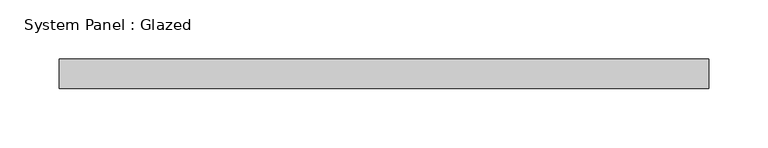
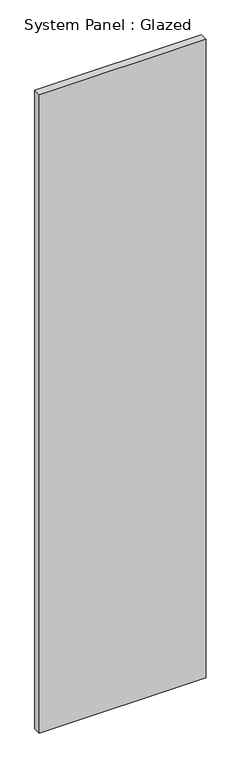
"""IFC4 building model written with IfcOpenShell, lengths in millimetres: plate geometry, System Panel : Glazed."""

import ifcopenshell
import ifcopenshell.guid

model = None  # the IFC model being written
_history = None  # IfcOwnerHistory: only IFC2X3 demands one
_inside = {}  # id of a spatial element -> (the spatial element, [elements in it])
_under = {}  # id of a project, library or spatial element -> (it, [spatial elements below it])
_declared = {}  # id of a project -> (the project, [libraries it declares])
_typed = {}  # id of a type object -> (the type object, [elements of that type])
_made_of = {}  # id of a material, layer set ... -> (it, [elements and type objects made of it])


def new_model(schema):
    """Start an empty IFC model of exactly this schema.

    Asked for "IFC4X3", IfcOpenShell would pick the latest addendum, in which some entities
    have other attributes; the version numbers below select the first issue.
    IFC2X3 requires an IfcOwnerHistory on every rooted entity: one is made here for all.
    """
    global model, _history
    if schema == "IFC4X3":
        model = ifcopenshell.file(schema_version=(4, 3, 0, 0))
    else:
        model = ifcopenshell.file(schema=schema)
    _inside.clear()
    _under.clear()
    _declared.clear()
    _typed.clear()
    _made_of.clear()
    _history = None
    if model.schema == "IFC2X3":
        org = make("IfcOrganization", Name="unknown")
        user = make(
            "IfcPersonAndOrganization",
            ThePerson=make("IfcPerson", FamilyName="unknown"),
            TheOrganization=org,
        )
        app = make(
            "IfcApplication",
            ApplicationDeveloper=org,
            Version="unknown",
            ApplicationFullName="unknown",
            ApplicationIdentifier="unknown",
        )
        _history = make(
            "IfcOwnerHistory",
            OwningUser=user,
            OwningApplication=app,
            ChangeAction="ADDED",
            CreationDate=0,
        )
    return model


def make(cls, **values):
    """One entity of the class cls with the attributes given. An attribute that is None is left unset."""
    return model.create_entity(
        cls, **{name: value for name, value in values.items() if value is not None}
    )


def rooted(cls, **values):
    """An entity with a GlobalId (a new one), such as an element, a storey or a relation."""
    return make(cls, GlobalId=ifcopenshell.guid.new(), OwnerHistory=_history, **values)


def si_unit(unit_type, name, prefix=None):
    """IfcSIUnit, for example si_unit("LENGTHUNIT", "METRE", prefix="MILLI")."""
    return make("IfcSIUnit", UnitType=unit_type, Prefix=prefix, Name=name)


def assignment(units):
    """IfcUnitAssignment: the units of a project."""
    return None if units is None else make("IfcUnitAssignment", Units=units)


def point(xyz):
    """IfcCartesianPoint."""
    return None if xyz is None else make("IfcCartesianPoint", Coordinates=xyz)


def direction(xyz):
    """IfcDirection."""
    return None if xyz is None else make("IfcDirection", DirectionRatios=xyz)


def frame(location, z_axis=None, x_axis=None):
    """IfcAxis2Placement3D, a coordinate frame: its origin and axes. An axis left out is left unset."""
    return make(
        "IfcAxis2Placement3D",
        Location=point(location),
        Axis=direction(z_axis),
        RefDirection=direction(x_axis),
    )


def origin():
    """The frame at (0, 0, 0) with its axes left unset."""
    return frame((0.0, 0.0, 0.0))


def origin_with_axes():
    """The frame at (0, 0, 0) with the z axis (0, 0, 1) and the x axis (1, 0, 0) written out."""
    return frame((0.0, 0.0, 0.0), z_axis=(0.0, 0.0, 1.0), x_axis=(1.0, 0.0, 0.0))


def place(relative_to, where):
    """IfcLocalPlacement: puts the frame where relative to a parent placement (None: the world)."""
    return make(
        "IfcLocalPlacement", PlacementRelTo=relative_to, RelativePlacement=where
    )


def context(
    kind, dimensions, precision=None, world=None, true_north=None, identifier=None
):
    """IfcGeometricRepresentationContext, for example the 3D "Model" context."""
    return make(
        "IfcGeometricRepresentationContext",
        ContextIdentifier=identifier,
        ContextType=kind,
        CoordinateSpaceDimension=dimensions,
        Precision=precision,
        WorldCoordinateSystem=world,
        TrueNorth=true_north,
    )


def project(units=None, contexts=None):
    """IfcProject with its units and contexts."""
    return rooted(
        "IfcProject",
        Name="project",
        RepresentationContexts=contexts,
        UnitsInContext=assignment(units),
    )


def spatial(cls, under=None, at=None, **own):
    """A site, building, storey or space (cls), placed at a placement, below another one or the project."""
    s = rooted(cls, ObjectPlacement=at, **own)
    if under is not None:
        _under.setdefault(under.id(), (under, []))[1].append(s)
    return s


def polyline(points):
    """IfcPolyline through the points."""
    return make("IfcPolyline", Points=[point(p) for p in points])


def outline(outer, holes=None, kind="AREA"):
    """IfcArbitraryClosedProfileDef: a profile drawn as a closed curve; with holes, ...WithVoids."""
    if holes is None:
        return make("IfcArbitraryClosedProfileDef", ProfileType=kind, OuterCurve=outer)
    return make(
        "IfcArbitraryProfileDefWithVoids",
        ProfileType=kind,
        OuterCurve=outer,
        InnerCurves=holes,
    )


def extrude(swept, where, along, depth):
    """IfcExtrudedAreaSolid: the profile swept, set in the frame where, extruded along a direction by depth."""
    return make(
        "IfcExtrudedAreaSolid",
        SweptArea=swept,
        Position=where,
        ExtrudedDirection=direction(along),
        Depth=depth,
    )


def shape(context_of_items, identifier, shape_type, items):
    """IfcShapeRepresentation: the items that make up one representation, for example the "Body"."""
    return make(
        "IfcShapeRepresentation",
        ContextOfItems=context_of_items,
        RepresentationIdentifier=identifier,
        RepresentationType=shape_type,
        Items=items,
    )


def source(mapping_origin, context_of_items, identifier, shape_type, items):
    """IfcRepresentationMap: a shape defined once, which mapped items show again and again."""
    return make(
        "IfcRepresentationMap",
        MappingOrigin=mapping_origin,
        MappedRepresentation=shape(context_of_items, identifier, shape_type, items),
    )


def transform(
    local_origin,
    x_axis=None,
    y_axis=None,
    z_axis=None,
    scale=None,
    scale2=None,
    scale3=None,
    uniform=True,
):
    """IfcCartesianTransformationOperator3D, or its non-uniform kind. x_axis, y_axis, z_axis: its Axis1, 2, 3."""
    if uniform:
        return make(
            "IfcCartesianTransformationOperator3D",
            Axis1=direction(x_axis),
            Axis2=direction(y_axis),
            LocalOrigin=point(local_origin),
            Scale=scale,
            Axis3=direction(z_axis),
        )
    return make(
        "IfcCartesianTransformationOperator3DnonUniform",
        Axis1=direction(x_axis),
        Axis2=direction(y_axis),
        LocalOrigin=point(local_origin),
        Scale=scale,
        Axis3=direction(z_axis),
        Scale2=scale2,
        Scale3=scale3,
    )


def mapped(mapping_source, mapping_target):
    """IfcMappedItem: shows the shape of a source again, moved by a transform."""
    return make(
        "IfcMappedItem", MappingSource=mapping_source, MappingTarget=mapping_target
    )


def made_of(thing, what):
    """Note that an element or type object is made of a material, layer set ...; save() writes the relation."""
    if what is not None:
        _made_of.setdefault(what.id(), (what, []))[1].append(thing)
    return thing


def element(
    cls,
    number,
    at=None,
    inside=None,
    cuts=None,
    type_object=None,
    material=None,
    context=None,
    identifier="Body",
    shape_type=None,
    held_by="IfcProductDefinitionShape",
    body=None,
    shapes=None,
    **own,
):
    """One element of the class cls, such as IfcWall. Its Tag is "e" and its number.

    at: its placement. inside: the storey or other place that contains it. cuts: it is an
    opening in that element (IfcRelVoidsElement). A single representation is given by context,
    identifier, shape_type and body (its items); several are given by shapes. held_by: the class
    of the entity that holds the representations. save() writes the other relations.
    """
    e = rooted(cls, Tag="e%d" % number, ObjectPlacement=at, **own)
    if body is not None:
        shapes = [shape(context, identifier, shape_type, body)]
    if shapes is not None:
        e.Representation = make(held_by, Representations=shapes)
    if inside is not None:
        _inside.setdefault(inside.id(), (inside, []))[1].append(e)
    if cuts is not None:
        rooted(
            "IfcRelVoidsElement", RelatingBuildingElement=cuts, RelatedOpeningElement=e
        )
    if type_object is not None:
        _typed.setdefault(type_object.id(), (type_object, []))[1].append(e)
    return made_of(e, material)


def aggregate(whole, parts):
    """IfcRelAggregates: a whole, such as a stair, and the parts it consists of."""
    return rooted("IfcRelAggregates", RelatingObject=whole, RelatedObjects=parts)


def save(model, path):
    """Write the relations noted so far, then the file.

    IfcRelAggregates (storeys below a building ...), IfcRelContainedInSpatialStructure (elements
    in a storey), IfcRelDefinesByType, IfcRelAssociatesMaterial and IfcRelDeclares: one each for
    every whole, place, type object, material and project.
    """
    for whole, parts in _under.values():
        aggregate(whole, parts)
    for where, things in _inside.values():
        rooted(
            "IfcRelContainedInSpatialStructure",
            RelatedElements=things,
            RelatingStructure=where,
        )
    for kind, things in _typed.values():
        rooted("IfcRelDefinesByType", RelatedObjects=things, RelatingType=kind)
    for what, things in _made_of.values():
        rooted("IfcRelAssociatesMaterial", RelatedObjects=things, RelatingMaterial=what)
    for by, libraries in _declared.values():
        rooted("IfcRelDeclares", RelatingContext=by, RelatedDefinitions=libraries)
    model.write(path)


def system_panel_glazed_55cc88df(model_context):
    return source(origin(), model_context, "Body", "SweptSolid", [
        extrude(outline(polyline([(274.9999999, -49.5), (-274.9999999, -49.5), (-274.9999999, -24.5), (274.9999999, -24.5), (274.9999999, -49.5)])), origin_with_axes(), (0.0, 0.0, 1.0), 2225.0),
    ])


if __name__ == "__main__":
    model = new_model("IFC4")
    model_context = context("Model", 3, world=origin())
    ifc_project = project(units=[si_unit("LENGTHUNIT", "METRE", prefix="MILLI")], contexts=[model_context])
    site = spatial("IfcSite", under=ifc_project)
    building = spatial("IfcBuilding", under=site)
    placement = place(None, origin())
    system_panel_glazed_shape = system_panel_glazed_55cc88df(model_context)
    element("IfcPlate", 1, ObjectType="System Panel : Glazed", at=placement, inside=building, context=model_context, shape_type="MappedRepresentation", body=[
        mapped(system_panel_glazed_shape, transform((0.0, 0.0, 0.0), x_axis=(1.0, 0.0, 0.0), y_axis=(0.0, 1.0, 0.0), z_axis=(0.0, 0.0, 1.0))),
    ])
    save(model, "model.ifc")
